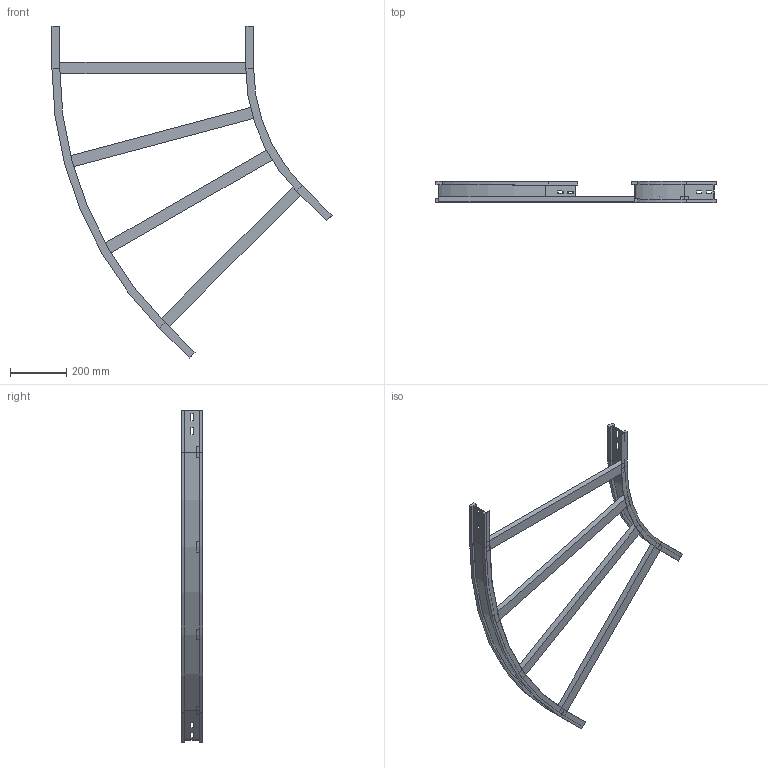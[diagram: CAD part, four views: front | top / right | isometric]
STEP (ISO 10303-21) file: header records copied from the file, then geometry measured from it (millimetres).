
FILE_DESCRIPTION (( 'STEP AP214' ), '1' );
FILE_NAME ('11S6C700.step', '2025-02-21T16:06:27', ( '' ), ( '' ), 'SwSTEP 2.0', 'SolidWorks 2023', '' );
FILE_SCHEMA (( 'AUTOMOTIVE_DESIGN' ));
Length unit declared in the file: millimetre
Products named in the file (4): LONGH.INTERNO 45°_H75_R600; TRAVERSINO_700; 11S6C700; LONGH.ESTERNO 45°_H75_R600+700
Assembly tree (6 placements, depth 2):
  11S6C700
    LONGH.INTERNO 45°_H75_R600
    LONGH.ESTERNO 45°_H75_R600+700
    TRAVERSINO_700  x4
Bounding box: 997.17 x 75 x 1181.67 mm (x, y, z)
Volume: 3286539.4 mm3; surface area: 859802.4 mm2
Topology: 6 solids, 6 shells, 132 faces, 312 edges, 192 vertices
Faces by surface type: plane 120, cylinder 12
Entity records: 3397 total; most frequent: CARTESIAN_POINT 567, ORIENTED_EDGE 552, DIRECTION 546, EDGE_CURVE 276, LINE 252, VECTOR 252, VERTEX_POINT 168, AXIS2_PLACEMENT_3D 147
